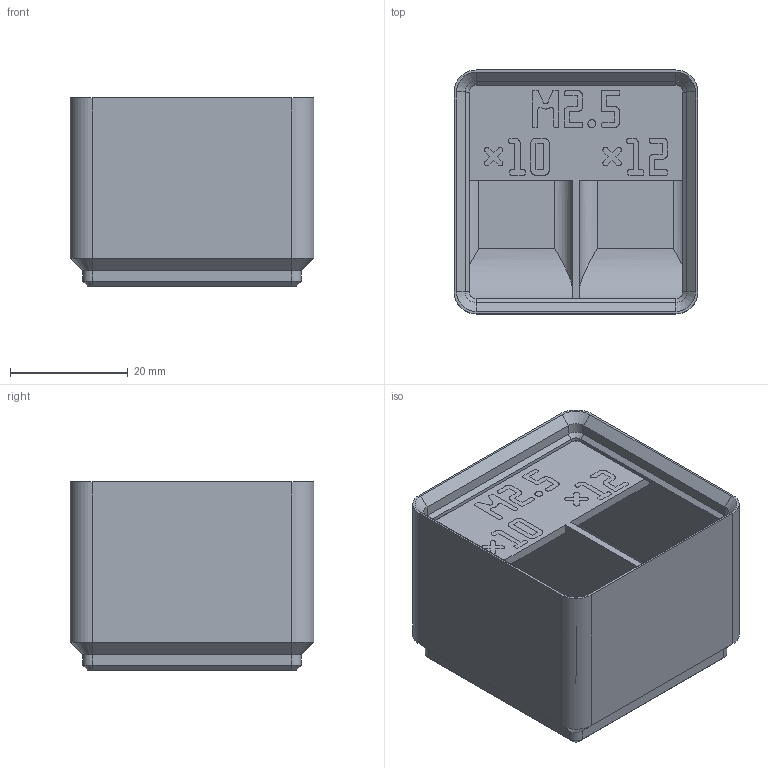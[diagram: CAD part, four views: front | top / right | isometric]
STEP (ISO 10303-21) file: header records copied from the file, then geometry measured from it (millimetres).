
FILE_DESCRIPTION(('Open CASCADE Model'),'2;1');
FILE_NAME('bin_M2.5_10-12','2026-11-03T10:52:01',('Author'),( 'Open CASCADE'),'Open CASCADE STEP processor 8.0','build123d', 'Unknown');
FILE_SCHEMA(('AUTOMOTIVE_DESIGN { 1 0 10303 214 1 1 1 1 }'));
Length unit declared in the file: millimetre
Products named in the file (3): bin_M2.5_10-12; M2.5_10-12_body; M2.5_10-12_label
Assembly tree (2 placements, depth 2):
  bin_M2.5_10-12
    M2.5_10-12_body
    M2.5_10-12_label
Bounding box: 41.5 x 41.5 x 32 mm (x, y, z)
Volume: 21988.3 mm3; surface area: 14278 mm2
Topology: 11 solids, 11 shells, 1970 faces, 5744 edges, 3808 vertices
Faces by surface type: plane 1926, cylinder 24, cone 20
Entity records: 138765 total; most frequent: CARTESIAN_POINT 23895, DIRECTION 20969, LINE 16904, VECTOR 16904, ORIENTED_EDGE 11488, PCURVE 11488, DEFINITIONAL_REPRESENTATION 11488, EDGE_CURVE 5744
